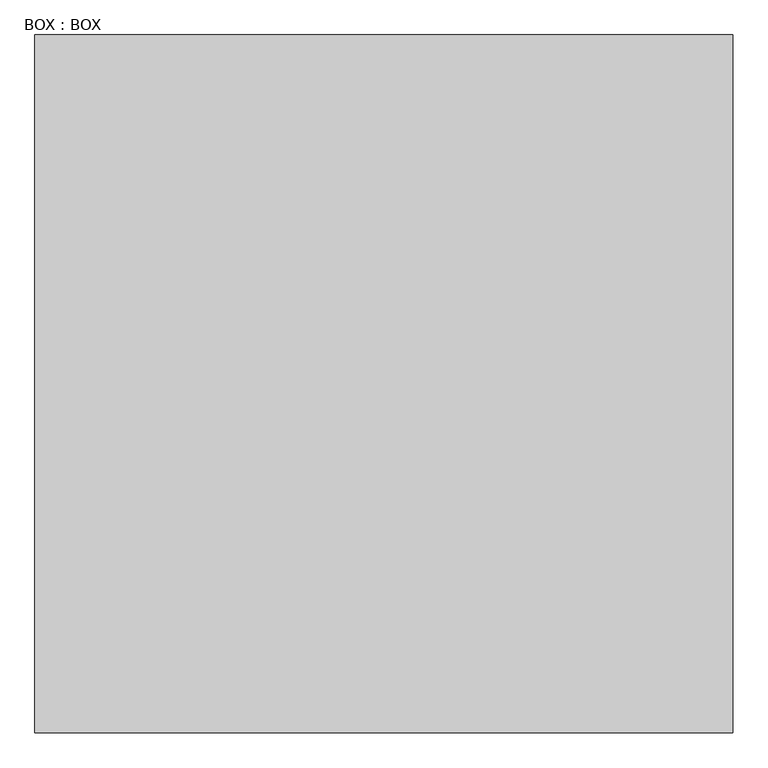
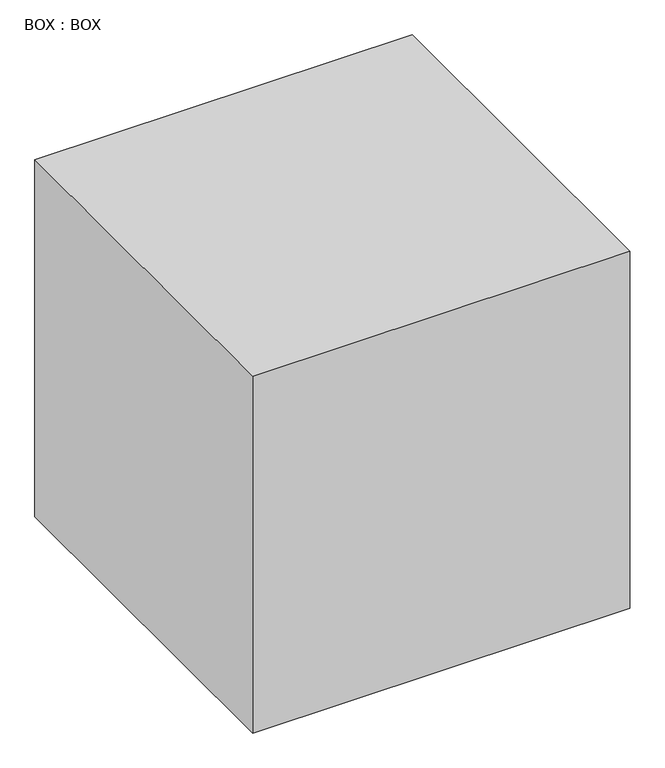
"""IFC4 building model written with IfcOpenShell, lengths in millimetres: proxy geometry, BOX : BOX."""

from ifc_helpers import new_model, si_unit, origin, origin_with_axes, place, context, project, spatial, polyline, outline, extrude, source, transform, mapped, element, save


def box_box_eb486f9c(model_context):
    return source(origin(), model_context, "Body", "SweptSolid", [
        extrude(outline(polyline([(-9914.8881863, 6008.1095718), (-9914.8881863, 5008.1095718), (-10914.8881863, 5008.1095718), (-10914.8881863, 6008.1095718), (-9914.8881863, 6008.1095718)])), origin_with_axes(), (0.0, 0.0, 1.0), 1000.0),
    ])


if __name__ == "__main__":
    model = new_model("IFC4")
    model_context = context("Model", 3, world=origin())
    ifc_project = project(units=[si_unit("LENGTHUNIT", "METRE", prefix="MILLI")], contexts=[model_context])
    site = spatial("IfcSite", under=ifc_project)
    building = spatial("IfcBuilding", under=site)
    placement = place(None, origin())
    box_box_shape = box_box_eb486f9c(model_context)
    element("IfcBuildingElementProxy", 1, Name="BOX : BOX", ObjectType="BOX : BOX", at=placement, inside=building, context=model_context, shape_type="MappedRepresentation", body=[
        mapped(box_box_shape, transform((0.0, 0.0, 0.0), x_axis=(1.0, 0.0, 0.0), y_axis=(0.0, 1.0, 0.0), z_axis=(0.0, 0.0, 1.0))),
    ])
    save(model, "model.ifc")
